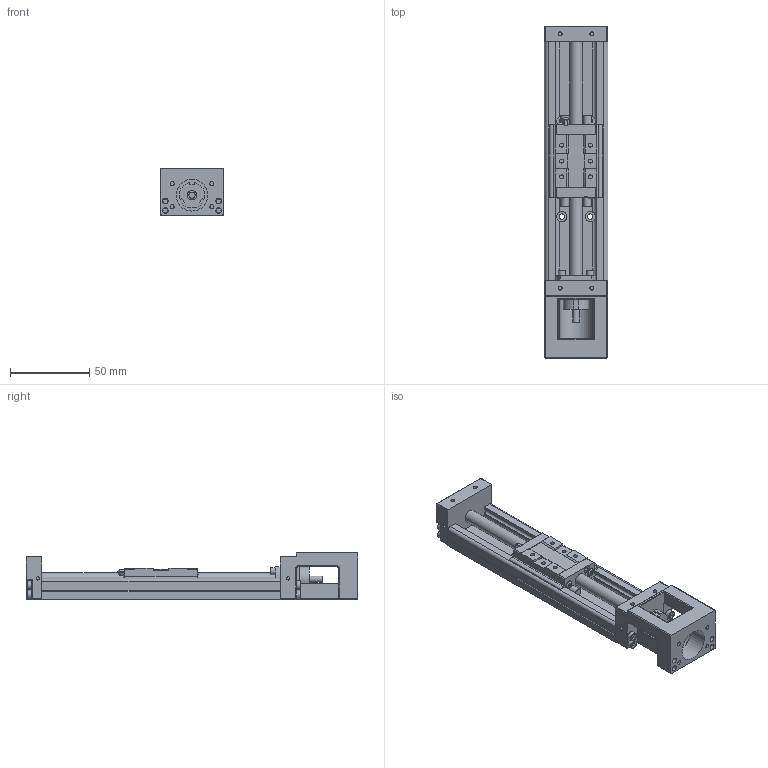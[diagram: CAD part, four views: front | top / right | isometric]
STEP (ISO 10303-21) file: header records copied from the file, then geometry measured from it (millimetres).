
FILE_DESCRIPTION(/* description */ (''),/* implementation_level */ '2;1');
FILE_NAME(/* name */ 'FKL40E150 2.5C7.stp',/* time_stamp */ '2018-12-26T14:40:22+08:00',/* author */ (''),/* organization */ (''),/* preprocessor_version */ 'ST-DEVELOPER v16',/* originating_system */ 'SIEMENS PLM Software NX 10.0',/* authorisation */ '');
FILE_SCHEMA (('AUTOMOTIVE_DESIGN { 1 0 10303 214 3 1 1 1 }'));
Length unit declared in the file: millimetre
Products named in the file (3): 滑块.KK40-A1; 轨道.KK40-150; FKL40E150 2.5C7
Assembly tree (2 placements, depth 2):
  FKL40E150 2.5C7
    轨道.KK40-150
    滑块.KK40-A1
Bounding box: 40 x 209 x 30 mm (x, y, z)
Volume: 107865 mm3; surface area: 46018.6 mm2
Topology: 2 solids, 2 shells, 518 faces, 1362 edges, 883 vertices
Faces by surface type: plane 338, cylinder 147, sphere 13, torus 10, cone 8, bspline 2
Full cylindrical faces by diameter (mm): 2.05 x4, 2.5 x15, 3.4 x4, 3.5 x4, 4 x1, 4.4 x8, 5 x7, 5.3 x8, 6 x2, 6.5 x4, 8 x2, 20 x1
Entity records: 15854 total; most frequent: CARTESIAN_POINT 3273, DIRECTION 2505, ORIENTED_EDGE 2444, EDGE_CURVE 1222, AXIS2_PLACEMENT_3D 836, LINE 833, VECTOR 833, VERTEX_POINT 828
